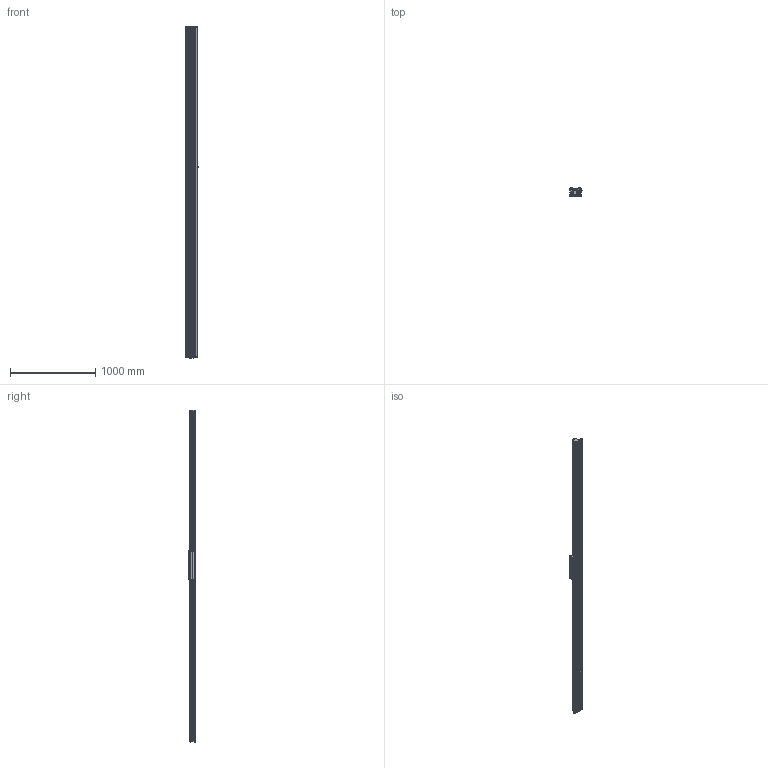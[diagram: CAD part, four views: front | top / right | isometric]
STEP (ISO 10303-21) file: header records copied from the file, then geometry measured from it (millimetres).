
FILE_DESCRIPTION (( 'STEP AP214' ), '1' );
FILE_NAME ('SINADRIVES Linear motor stage MLL20400XS-XX-1-0-ST-00-03876.STEP', '2015-07-07T06:33:55', ( 'Tecnico' ), ( '' ), 'SwSTEP 2.0', 'SolidWorks 2009', '' );
FILE_SCHEMA (( 'AUTOMOTIVE_DESIGN' ));
Length unit declared in the file: millimetre
Products named in the file (7): SINADRIVES PROFILE MLL2XXXX-3860; SINADRIVES CARRIAGE MLL20400XS-1; CARRIAGE MLL20400; Connector power+signal Y-tec 45; SINADRIVES ENDBLOCK MLL2; SINADRIVES ENDBLOCK MLL2-2; SINADRIVES Linear motor stage MLL20400XS-XX-1-0-ST-00-03876
Assembly tree (6 placements, depth 3):
  SINADRIVES Linear motor stage MLL20400XS-XX-1-0-ST-00-03876
    SINADRIVES CARRIAGE MLL20400XS-1
      CARRIAGE MLL20400
      Connector power+signal Y-tec 45
    SINADRIVES ENDBLOCK MLL2-2
    SINADRIVES ENDBLOCK MLL2
    SINADRIVES PROFILE MLL2XXXX-3860
Bounding box: 144.43 x 91 x 3884.8 mm (x, y, z)
Volume: 17267313.5 mm3; surface area: 2959821.2 mm2
Topology: 2 solids, 42 shells, 950 faces, 2640 edges, 1730 vertices
Faces by surface type: plane 445, cylinder 302, bspline 79, cone 70, torus 42, sphere 12
Entity records: 40587 total; most frequent: CARTESIAN_POINT 8656, ORIENTED_EDGE 5024, DIRECTION 4947, EDGE_CURVE 2622, AXIS2_PLACEMENT_3D 1781, VERTEX_POINT 1730, LINE 1385, VECTOR 1385
